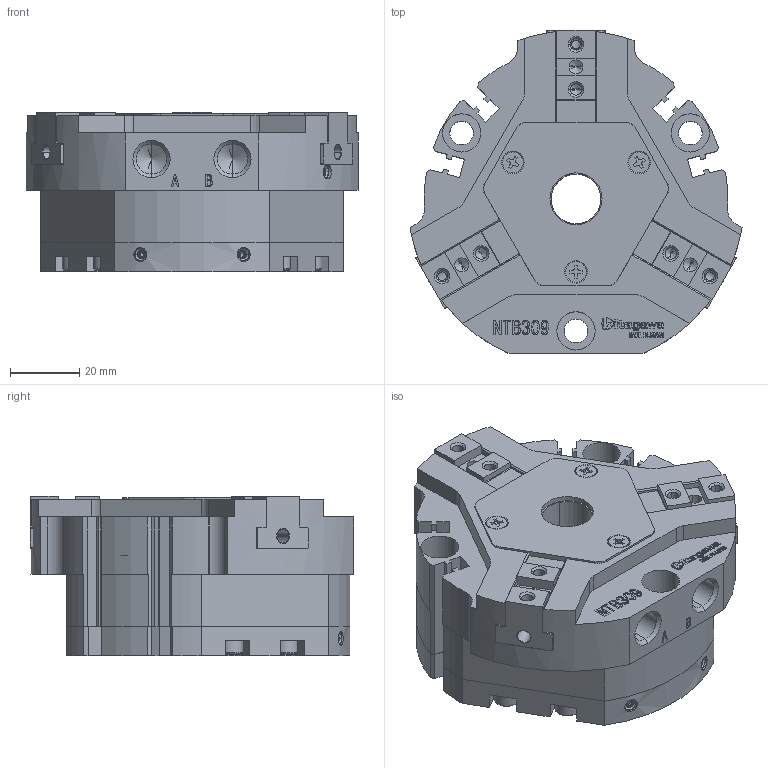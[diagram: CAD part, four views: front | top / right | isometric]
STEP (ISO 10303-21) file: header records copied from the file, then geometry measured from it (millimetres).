
FILE_DESCRIPTION (( 'STEP AP214' ), '1' );
FILE_NAME ('NTB309-UC.STEP', '2026-03-03T11:20:45', ( '' ), ( '' ), 'SwSTEP 2.0', 'SolidWorks 2022', '' );
FILE_SCHEMA (( 'AUTOMOTIVE_DESIGN' ));
Length unit declared in the file: millimetre
Products named in the file (10): BODY^HP-NTB309; REAR BODY^HP-NTB309; MASTER JAW^HP-NTB309; PIPE^HP-NTB309; NTB309-UC; COVER^HP-NTB309; S-TOME2^HP-NTB309; BOLT^HP-NTB309; S-SARA^HP-NTB309; S-TOME1^HP-NTB309
Assembly tree (21 placements, depth 2):
  NTB309-UC
    BODY^HP-NTB309
    REAR BODY^HP-NTB309
    MASTER JAW^HP-NTB309  x3
    PIPE^HP-NTB309
    COVER^HP-NTB309
    BOLT^HP-NTB309  x6
    S-TOME1^HP-NTB309  x3
    S-SARA^HP-NTB309  x3
    S-TOME2^HP-NTB309  x2
Bounding box: 95.59 x 93 x 46 mm (x, y, z)
Volume: 229569.4 mm3; surface area: 69532.1 mm2
Topology: 21 solids, 21 shells, 1930 faces, 5280 edges, 3419 vertices
Faces by surface type: plane 1305, cylinder 270, cone 216, bspline 137, torus 2
Entity records: 69095 total; most frequent: CARTESIAN_POINT 16437, ORIENTED_EDGE 8932, DIRECTION 7556, EDGE_CURVE 4466, VECTOR 3646, LINE 3646, VERTEX_POINT 2946, AXIS2_PLACEMENT_3D 1955
